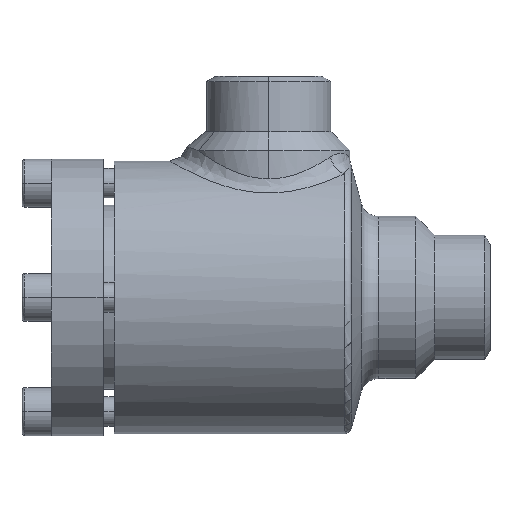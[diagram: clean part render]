
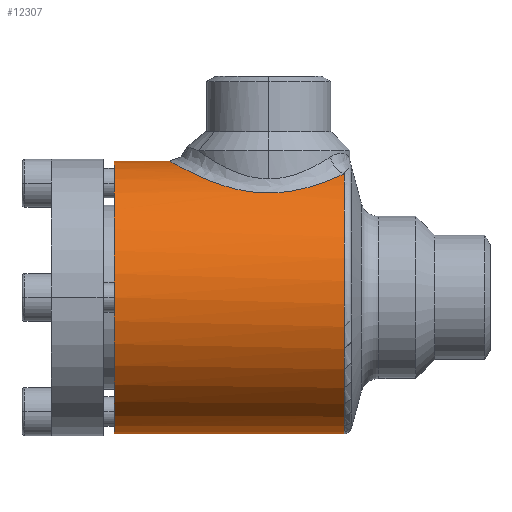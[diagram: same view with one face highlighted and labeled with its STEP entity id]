
A CAD part, left-side view. The second image highlights one B-rep face of the part: STEP entity #12307.
In plain terms, the highlighted cylindrical face has radius 37 mm (diameter 74 mm), a partial arc.
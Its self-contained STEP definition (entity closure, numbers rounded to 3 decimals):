
#1072 = B_SPLINE_CURVE_WITH_KNOTS ( 'NONE', 3,
 ( #1073, #1074, #1075, #1076, #1077, #1078, #1079, #1080, #1081, #1082, #1083, #1084, #1085, #1086, #1087, #1088, #1089, #1090, #1091, #1092, #1093, #1094, #1095, #1096, #1097, #1098, #1099, #1100, #1101, #1102, #1103, #1106, #1107, #1108, #1109, #1110, #1111, #1112, #1113, #1114, #1115, #1116, #1117, #1118, #1119, #1120, #1121, #1122 ),
 .UNSPECIFIED., .F., .F.,
 ( 4, 2, 2, 2, 2, 2, 2, 2, 2, 2, 2, 2, 2, 2, 2, 2, 2, 2, 2, 2, 2, 2, 2, 4 ),
 ( 0., 0.004, 0.008, 0.01, 0.012, 0.016, 0.018, 0.02, 0.024, 0.026, 0.028, 0.03, 0.032, 0.036, 0.04, 0.042, 0.044, 0.048, 0.05, 0.052, 0.056, 0.058, 0.06, 0.064 ),
 .UNSPECIFIED. ) ;
#1073 = CARTESIAN_POINT ( 'NONE',  ( -15.535, -62.446, 33.581 ) ) ;
#1074 = CARTESIAN_POINT ( 'NONE',  ( -16.452, -61.548, 33.157 ) ) ;
#1075 = CARTESIAN_POINT ( 'NONE',  ( -17.286, -60.594, 32.725 ) ) ;
#1076 = CARTESIAN_POINT ( 'NONE',  ( -18.811, -58.577, 31.873 ) ) ;
#1077 = CARTESIAN_POINT ( 'NONE',  ( -19.502, -57.514, 31.452 ) ) ;
#1078 = CARTESIAN_POINT ( 'NONE',  ( -20.434, -55.835, 30.848 ) ) ;
#1079 = CARTESIAN_POINT ( 'NONE',  ( -20.728, -55.259, 30.65 ) ) ;
#1080 = CARTESIAN_POINT ( 'NONE',  ( -21.277, -54.088, 30.272 ) ) ;
#1081 = CARTESIAN_POINT ( 'NONE',  ( -21.531, -53.494, 30.092 ) ) ;
#1082 = CARTESIAN_POINT ( 'NONE',  ( -22.233, -51.685, 29.581 ) ) ;
#1083 = CARTESIAN_POINT ( 'NONE',  ( -22.624, -50.442, 29.28 ) ) ;
#1084 = CARTESIAN_POINT ( 'NONE',  ( -23.09, -48.518, 28.912 ) ) ;
#1085 = CARTESIAN_POINT ( 'NONE',  ( -23.225, -47.864, 28.803 ) ) ;
#1086 = CARTESIAN_POINT ( 'NONE',  ( -23.453, -46.548, 28.618 ) ) ;
#1087 = CARTESIAN_POINT ( 'NONE',  ( -23.545, -45.887, 28.542 ) ) ;
#1088 = CARTESIAN_POINT ( 'NONE',  ( -23.756, -43.897, 28.367 ) ) ;
#1089 = CARTESIAN_POINT ( 'NONE',  ( -23.81, -42.56, 28.321 ) ) ;
#1090 = CARTESIAN_POINT ( 'NONE',  ( -23.758, -40.538, 28.365 ) ) ;
#1091 = CARTESIAN_POINT ( 'NONE',  ( -23.718, -39.862, 28.398 ) ) ;
#1092 = CARTESIAN_POINT ( 'NONE',  ( -23.596, -38.528, 28.5 ) ) ;
#1093 = CARTESIAN_POINT ( 'NONE',  ( -23.513, -37.867, 28.569 ) ) ;
#1094 = CARTESIAN_POINT ( 'NONE',  ( -23.304, -36.555, 28.739 ) ) ;
#1095 = CARTESIAN_POINT ( 'NONE',  ( -23.179, -35.905, 28.84 ) ) ;
#1096 = CARTESIAN_POINT ( 'NONE',  ( -22.886, -34.615, 29.073 ) ) ;
#1097 = CARTESIAN_POINT ( 'NONE',  ( -22.718, -33.974, 29.205 ) ) ;
#1098 = CARTESIAN_POINT ( 'NONE',  ( -22.153, -32.08, 29.639 ) ) ;
#1099 = CARTESIAN_POINT ( 'NONE',  ( -21.7, -30.866, 29.975 ) ) ;
#1100 = CARTESIAN_POINT ( 'NONE',  ( -20.645, -28.526, 30.712 ) ) ;
#1101 = CARTESIAN_POINT ( 'NONE',  ( -20.043, -27.4, 31.112 ) ) ;
#1102 = CARTESIAN_POINT ( 'NONE',  ( -19.02, -25.773, 31.74 ) ) ;
#1103 = CARTESIAN_POINT ( 'NONE',  ( -18.66, -25.243, 31.953 ) ) ;
#1106 = CARTESIAN_POINT ( 'NONE',  ( -17.908, -24.217, 32.381 ) ) ;
#1107 = CARTESIAN_POINT ( 'NONE',  ( -17.515, -23.72, 32.595 ) ) ;
#1108 = CARTESIAN_POINT ( 'NONE',  ( -16.284, -22.274, 33.237 ) ) ;
#1109 = CARTESIAN_POINT ( 'NONE',  ( -15.395, -21.372, 33.662 ) ) ;
#1110 = CARTESIAN_POINT ( 'NONE',  ( -13.943, -20.115, 34.276 ) ) ;
#1111 = CARTESIAN_POINT ( 'NONE',  ( -13.437, -19.71, 34.478 ) ) ;
#1112 = CARTESIAN_POINT ( 'NONE',  ( -12.398, -18.947, 34.865 ) ) ;
#1113 = CARTESIAN_POINT ( 'NONE',  ( -11.864, -18.588, 35.051 ) ) ;
#1114 = CARTESIAN_POINT ( 'NONE',  ( -10.215, -17.575, 35.581 ) ) ;
#1115 = CARTESIAN_POINT ( 'NONE',  ( -9.054, -16.989, 35.897 ) ) ;
#1116 = CARTESIAN_POINT ( 'NONE',  ( -7.207, -16.258, 36.297 ) ) ;
#1117 = CARTESIAN_POINT ( 'NONE',  ( -6.575, -16.041, 36.417 ) ) ;
#1118 = CARTESIAN_POINT ( 'NONE',  ( -5.29, -15.666, 36.626 ) ) ;
#1119 = CARTESIAN_POINT ( 'NONE',  ( -4.64, -15.508, 36.714 ) ) ;
#1120 = CARTESIAN_POINT ( 'NONE',  ( -2.677, -15.129, 36.926 ) ) ;
#1121 = CARTESIAN_POINT ( 'NONE',  ( -1.349, -15., 37. ) ) ;
#1122 = CARTESIAN_POINT ( 'NONE',  ( 0., -15., 37. ) ) ;
#1295 = LINE ( 'NONE', #1296, #1297 ) ;
#1296 = CARTESIAN_POINT ( 'NONE',  ( 0., -68., 37. ) ) ;
#1297 = VECTOR ( 'NONE', #1298, 1000. ) ;
#1298 = DIRECTION ( 'NONE',  ( 0., 1., 0. ) ) ;
#2026 = VERTEX_POINT ( 'NONE', #9741 ) ;
#2460 = VERTEX_POINT ( 'NONE', #9972 ) ;
#2714 = VERTEX_POINT ( 'NONE', #10138 ) ;
#2918 = EDGE_CURVE ( 'NONE', #10598, #2714, #10293, .T. ) ;
#3256 = ORIENTED_EDGE ( 'NONE', *, *, #2918, .T. ) ;
#3656 = ORIENTED_EDGE ( 'NONE', *, *, #5685, .F. ) ;
#4354 = EDGE_CURVE ( 'NONE', #2460, #10716, #10776, .T. ) ;
#4652 = ORIENTED_EDGE ( 'NONE', *, *, #4354, .F. ) ;
#4686 = ORIENTED_EDGE ( 'NONE', *, *, #10679, .T. ) ;
#5157 = EDGE_CURVE ( 'NONE', #2714, #2026, #1072, .T. ) ;
#5463 = ORIENTED_EDGE ( 'NONE', *, *, #5157, .T. ) ;
#5685 = EDGE_CURVE ( 'NONE', #10598, #2460, #8931, .T. ) ;
#8931 = LINE ( 'NONE', #8932, #8933 ) ;
#8932 = CARTESIAN_POINT ( 'NONE',  ( 0., -68., -37. ) ) ;
#8933 = VECTOR ( 'NONE', #8934, 1000. ) ;
#8934 = DIRECTION ( 'NONE',  ( 0., 1., 0. ) ) ;
#9309 = CARTESIAN_POINT ( 'NONE',  ( 0., 0., 37. ) ) ;
#9384 = FACE_OUTER_BOUND ( 'NONE', #12086, .T. ) ;
#9385 = CYLINDRICAL_SURFACE ( 'NONE', #9386, 37. ) ;
#9386 = AXIS2_PLACEMENT_3D ( 'NONE', #9387, #9388, #9389 ) ;
#9387 = CARTESIAN_POINT ( 'NONE',  ( 0., -68., 0. ) ) ;
#9388 = DIRECTION ( 'NONE',  ( 0., 1., 0. ) ) ;
#9389 = DIRECTION ( 'NONE',  ( 0., 0., 1. ) ) ;
#9412 = CARTESIAN_POINT ( 'NONE',  ( 0., -62.446, -37. ) ) ;
#9741 = CARTESIAN_POINT ( 'NONE',  ( 0., -15., 37. ) ) ;
#9972 = CARTESIAN_POINT ( 'NONE',  ( 0., 0., -37. ) ) ;
#10138 = CARTESIAN_POINT ( 'NONE',  ( -15.535, -62.446, 33.581 ) ) ;
#10293 = CIRCLE ( 'NONE', #10294, 37. ) ;
#10294 = AXIS2_PLACEMENT_3D ( 'NONE', #10295, #10296, #10297 ) ;
#10295 = CARTESIAN_POINT ( 'NONE',  ( 0., -62.446, 0. ) ) ;
#10296 = DIRECTION ( 'NONE',  ( 0., 1., 0. ) ) ;
#10297 = DIRECTION ( 'NONE',  ( 0., 0., -1. ) ) ;
#10598 = VERTEX_POINT ( 'NONE', #9412 ) ;
#10679 = EDGE_CURVE ( 'NONE', #2026, #10716, #1295, .T. ) ;
#10716 = VERTEX_POINT ( 'NONE', #9309 ) ;
#10776 = CIRCLE ( 'NONE', #10777, 37. ) ;
#10777 = AXIS2_PLACEMENT_3D ( 'NONE', #10779, #10780, #10781 ) ;
#10779 = CARTESIAN_POINT ( 'NONE',  ( 0., 0., 0. ) ) ;
#10780 = DIRECTION ( 'NONE',  ( 0., 1., 0. ) ) ;
#10781 = DIRECTION ( 'NONE',  ( 0., 0., 1. ) ) ;
#12086 = EDGE_LOOP ( 'NONE', ( #3656, #3256, #5463, #4686, #4652 ) ) ;
#12307 = ADVANCED_FACE ( 'NONE', ( #9384 ), #9385, .T. ) ;
